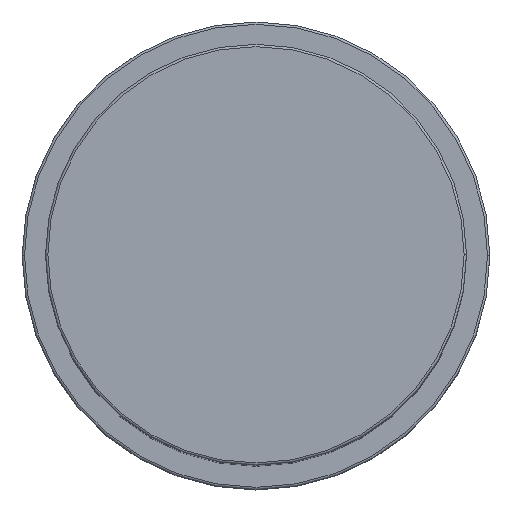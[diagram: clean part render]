
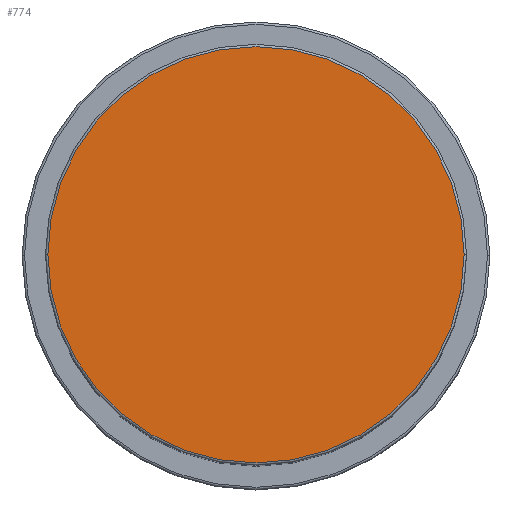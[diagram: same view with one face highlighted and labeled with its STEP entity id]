
A CAD part, top view. The second image highlights one B-rep face of the part: STEP entity #774.
In plain terms, the highlighted planar face has unit normal (0, 0, 1).
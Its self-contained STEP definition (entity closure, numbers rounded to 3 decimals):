
#21 = CARTESIAN_POINT ( 'NONE',  ( 0., 0., 149. ) ) ;
#57 = DIRECTION ( 'NONE',  ( 0., 0., 1. ) ) ;
#138 = DIRECTION ( 'NONE',  ( 1., 0., 0. ) ) ;
#263 = CARTESIAN_POINT ( 'NONE',  ( -44.5, 0., 149. ) ) ;
#302 = PLANE ( 'NONE',  #939 ) ;
#359 = EDGE_CURVE ( 'NONE', #1290, #784, #720, .T. ) ;
#391 = EDGE_LOOP ( 'NONE', ( #480, #1661 ) ) ;
#459 = CARTESIAN_POINT ( 'NONE',  ( 0., 0., 149. ) ) ;
#480 = ORIENTED_EDGE ( 'NONE', *, *, #1964, .T. ) ;
#585 = AXIS2_PLACEMENT_3D ( 'NONE', #1159, #57, #982 ) ;
#720 = CIRCLE ( 'NONE', #585, 44.5 ) ;
#759 = DIRECTION ( 'NONE',  ( 0., 0., 1. ) ) ;
#774 = ADVANCED_FACE ( 'NONE', ( #1267 ), #302, .T. ) ;
#784 = VERTEX_POINT ( 'NONE', #948 ) ;
#938 = DIRECTION ( 'NONE',  ( 0., 0., 1. ) ) ;
#939 = AXIS2_PLACEMENT_3D ( 'NONE', #459, #938, #1734 ) ;
#948 = CARTESIAN_POINT ( 'NONE',  ( 44.5, 0., 149. ) ) ;
#982 = DIRECTION ( 'NONE',  ( 1., 0., 0. ) ) ;
#1104 = CIRCLE ( 'NONE', #1474, 44.5 ) ;
#1159 = CARTESIAN_POINT ( 'NONE',  ( 0., 0., 149. ) ) ;
#1267 = FACE_OUTER_BOUND ( 'NONE', #391, .T. ) ;
#1290 = VERTEX_POINT ( 'NONE', #263 ) ;
#1474 = AXIS2_PLACEMENT_3D ( 'NONE', #21, #759, #138 ) ;
#1661 = ORIENTED_EDGE ( 'NONE', *, *, #359, .T. ) ;
#1734 = DIRECTION ( 'NONE',  ( 1., 0., 0. ) ) ;
#1964 = EDGE_CURVE ( 'NONE', #784, #1290, #1104, .T. ) ;
